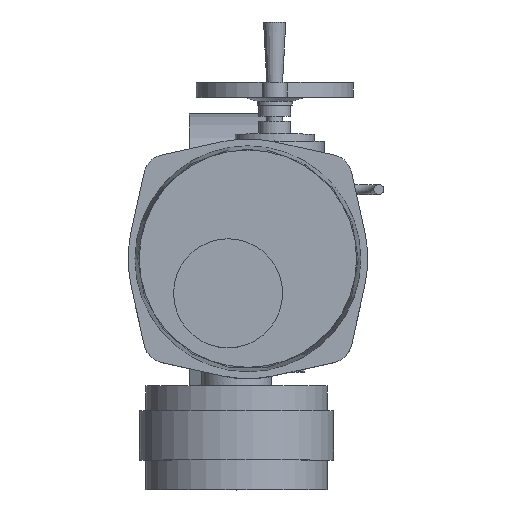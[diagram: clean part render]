
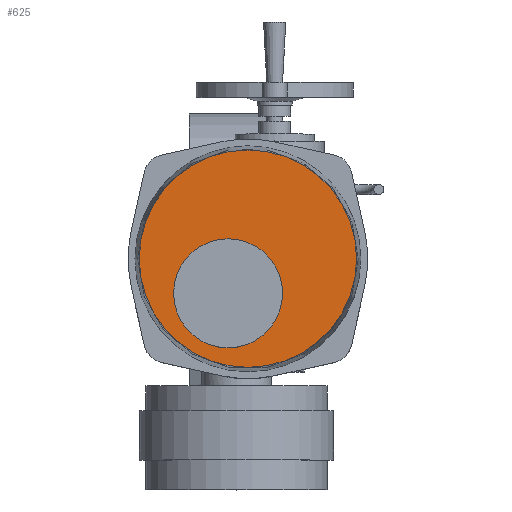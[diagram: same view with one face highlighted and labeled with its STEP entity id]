
A CAD part, top view. The second image highlights one B-rep face of the part: STEP entity #625.
In plain terms, the highlighted planar face has unit normal (0, 0, 1).
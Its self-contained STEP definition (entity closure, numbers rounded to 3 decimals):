
#625=ADVANCED_FACE('',(#8710,#8712),#8714,.T.);
#8710=FACE_BOUND('',#8711,.T.);
#8711=EDGE_LOOP('',(#15009));
#8712=FACE_BOUND('',#8713,.T.);
#8713=EDGE_LOOP('',(#15010));
#8714=PLANE('',#8715);
#8715=AXIS2_PLACEMENT_3D('',#8716,#8717,#8718);
#8716=CARTESIAN_POINT('',(20.,38.,589.));
#8717=DIRECTION('',(0.,0.,1.));
#8718=DIRECTION('',(-1.,0.,0.));
#15009=ORIENTED_EDGE('',*,*,#19978,.T.);
#15010=ORIENTED_EDGE('',*,*,#19981,.F.);
#19978=EDGE_CURVE('',#22658,#22658,#22659,.T.);
#19981=EDGE_CURVE('',#22664,#22664,#22665,.T.);
#22658=VERTEX_POINT('',#28007);
#22659=CIRCLE('',#28008,109.703);
#22664=VERTEX_POINT('',#28022);
#22665=CIRCLE('',#28023,55.);
#28007=CARTESIAN_POINT('',(-89.703,38.,589.));
#28008=AXIS2_PLACEMENT_3D('',#28009,#28010,#28011);
#28009=CARTESIAN_POINT('',(20.,38.,589.));
#28010=DIRECTION('',(0.,0.,1.));
#28011=DIRECTION('',(-1.,0.,0.));
#28022=CARTESIAN_POINT('',(-55.,3.,589.));
#28023=AXIS2_PLACEMENT_3D('',#28024,#28025,#28026);
#28024=CARTESIAN_POINT('',(0.,3.,589.));
#28025=DIRECTION('',(0.,0.,1.));
#28026=DIRECTION('',(-1.,0.,0.));
